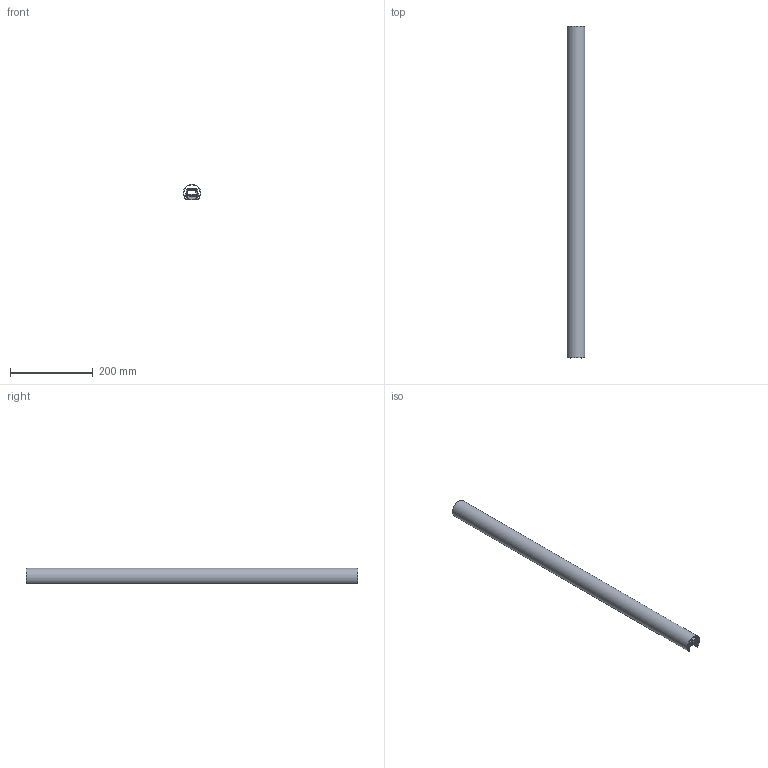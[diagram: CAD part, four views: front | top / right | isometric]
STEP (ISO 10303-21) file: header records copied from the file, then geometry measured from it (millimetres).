
FILE_DESCRIPTION(/* description */ ('STEP AP214'),/* implementation_level */ '2;1');
FILE_NAME(/* name */ '66fd4a7a7202d813c79aaa88',/* time_stamp */ '2024-10-02T13:28:27Z',/* author */ (''),/* organization */ (''),/* preprocessor_version */ 'ST-DEVELOPER v20',/* originating_system */ ' ',/* authorisation */ ' ');
FILE_SCHEMA (('AUTOMOTIVE_DESIGN {1 0 10303 214 3 1 1}'));
Length unit declared in the file: metre
Products named in the file (5): ULTRA-SAFE-42.4-Lilly-sym-asym; A001148; Lilly vereinfacht; A001179; A000420_k
Assembly tree (4 placements, depth 2):
  ULTRA-SAFE-42.4-Lilly-sym-asym
    A001148
    Lilly vereinfacht
    A001179
    A000420_k
Bounding box: 42.37 x 800 x 37 mm (x, y, z)
Volume: 469027.8 mm3; surface area: 379437.7 mm2
Topology: 4 solids, 4 shells, 180 faces, 474 edges, 305 vertices
Faces by surface type: plane 95, cylinder 77, bspline 8
Full cylindrical faces by diameter (mm): 4 x2, 4.2 x4, 5 x3, 6.6 x2
Entity records: 6880 total; most frequent: CARTESIAN_POINT 2307, DIRECTION 932, ORIENTED_EDGE 912, EDGE_CURVE 456, AXIS2_PLACEMENT_3D 315, LINE 302, VECTOR 302, VERTEX_POINT 298
